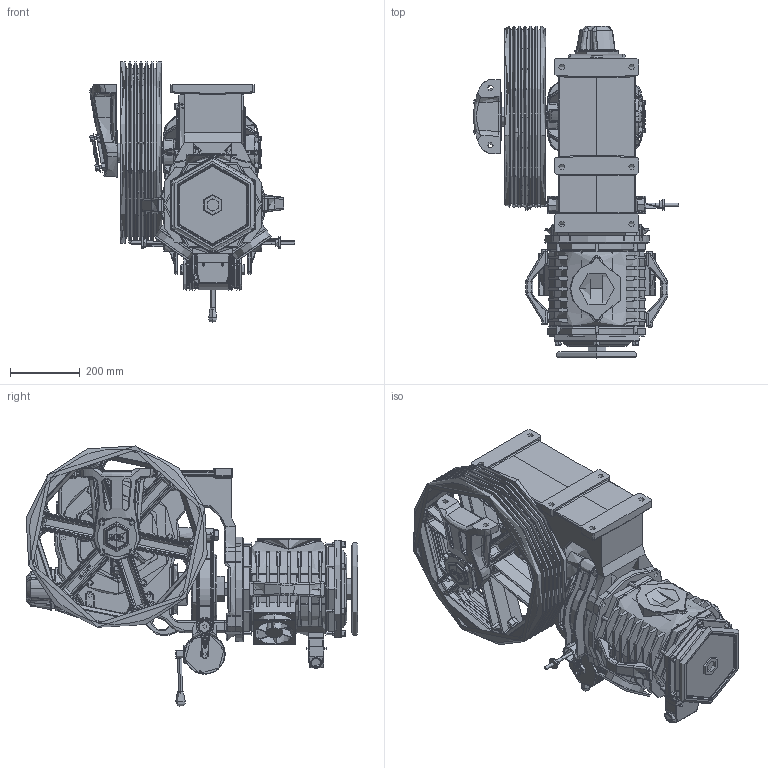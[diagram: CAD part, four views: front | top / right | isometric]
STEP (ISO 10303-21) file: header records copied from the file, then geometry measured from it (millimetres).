
FILE_DESCRIPTION (( 'STEP AP214' ), '1' );
FILE_NAME ('ST90100.STEP', '2026-01-15T11:08:31', ( '' ), ( '' ), 'SwSTEP 2.0', 'SolidWorks 2023', '' );
FILE_SCHEMA (( 'AUTOMOTIVE_DESIGN' ));
Length unit declared in the file: millimetre
Products named in the file (1): ST90100
Bounding box: 586.99 x 949.87 x 744.33 mm (x, y, z)
Topology: 75 solids, 83 shells, 7147 faces, 17219 edges, 10330 vertices
Faces by surface type: bspline 2455, plane 1797, cylinder 1759, torus 545, cone 533, sphere 58
Full cylindrical faces by diameter (mm): 20 x3
Entity records: 290993 total; most frequent: CARTESIAN_POINT 146180, ORIENTED_EDGE 34058, DIRECTION 24907, EDGE_CURVE 17029, VERTEX_POINT 10315, AXIS2_PLACEMENT_3D 10017, EDGE_LOOP 7754, FACE_OUTER_BOUND 7147
